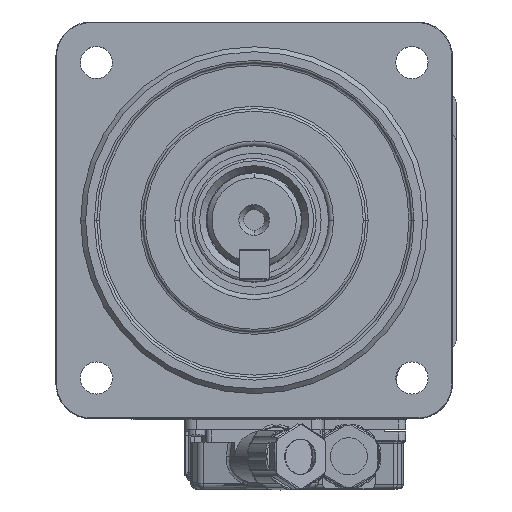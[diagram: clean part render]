
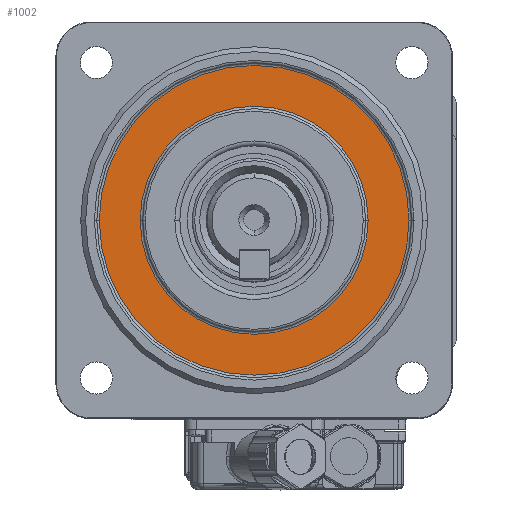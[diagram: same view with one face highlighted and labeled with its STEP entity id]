
A CAD part, top view. The second image highlights one B-rep face of the part: STEP entity #1002.
In plain terms, the highlighted planar face has unit normal (0, 0, 1).
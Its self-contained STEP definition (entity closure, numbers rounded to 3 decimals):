
#899 = DIRECTION ( 'NONE',  ( 1., 0., 0. ) ) ;
#1002 = ADVANCED_FACE ( 'NONE', ( #4811, #6462 ), #1188, .T. ) ;
#1188 = PLANE ( 'NONE',  #7041 ) ;
#2463 = VERTEX_POINT ( 'NONE', #40050 ) ;
#3810 = AXIS2_PLACEMENT_3D ( 'NONE', #15717, #4798, #19003 ) ;
#4598 = DIRECTION ( 'NONE',  ( 1., 0., 0. ) ) ;
#4628 = AXIS2_PLACEMENT_3D ( 'NONE', #12571, #41046, #5092 ) ;
#4798 = DIRECTION ( 'NONE',  ( 0., 0., 1. ) ) ;
#4811 = FACE_OUTER_BOUND ( 'NONE', #28766, .T. ) ;
#4825 = CIRCLE ( 'NONE', #18714, 31.25 ) ;
#5088 = ORIENTED_EDGE ( 'NONE', *, *, #9658, .T. ) ;
#5092 = DIRECTION ( 'NONE',  ( 1., 0., 0. ) ) ;
#5540 = ORIENTED_EDGE ( 'NONE', *, *, #43815, .T. ) ;
#5744 = CIRCLE ( 'NONE', #45180, 23. ) ;
#6462 = FACE_BOUND ( 'NONE', #11471, .T. ) ;
#7041 = AXIS2_PLACEMENT_3D ( 'NONE', #29849, #19139, #4598 ) ;
#7102 = VERTEX_POINT ( 'NONE', #33829 ) ;
#8200 = CIRCLE ( 'NONE', #3810, 31.25 ) ;
#9658 = EDGE_CURVE ( 'NONE', #7102, #9970, #5744, .T. ) ;
#9970 = VERTEX_POINT ( 'NONE', #20724 ) ;
#11471 = EDGE_LOOP ( 'NONE', ( #5088, #5540 ) ) ;
#11672 = DIRECTION ( 'NONE',  ( 0., 0., -1. ) ) ;
#12571 = CARTESIAN_POINT ( 'NONE',  ( 0., 0., 8. ) ) ;
#13103 = CARTESIAN_POINT ( 'NONE',  ( 0., 0., 8. ) ) ;
#14365 = ORIENTED_EDGE ( 'NONE', *, *, #35111, .T. ) ;
#15717 = CARTESIAN_POINT ( 'NONE',  ( 0., 0., 8. ) ) ;
#16210 = CIRCLE ( 'NONE', #4628, 23. ) ;
#16995 = DIRECTION ( 'NONE',  ( 0., 0., 1. ) ) ;
#18251 = ORIENTED_EDGE ( 'NONE', *, *, #34822, .T. ) ;
#18714 = AXIS2_PLACEMENT_3D ( 'NONE', #13103, #16995, #45601 ) ;
#19003 = DIRECTION ( 'NONE',  ( 1., 0., 0. ) ) ;
#19139 = DIRECTION ( 'NONE',  ( 0., 0., 1. ) ) ;
#20724 = CARTESIAN_POINT ( 'NONE',  ( -23., 0., 8. ) ) ;
#28503 = CARTESIAN_POINT ( 'NONE',  ( -31.25, 0., 8. ) ) ;
#28766 = EDGE_LOOP ( 'NONE', ( #18251, #14365 ) ) ;
#29849 = CARTESIAN_POINT ( 'NONE',  ( 0., 0., 8. ) ) ;
#33829 = CARTESIAN_POINT ( 'NONE',  ( 23., 0., 8. ) ) ;
#34822 = EDGE_CURVE ( 'NONE', #2463, #39595, #4825, .T. ) ;
#35111 = EDGE_CURVE ( 'NONE', #39595, #2463, #8200, .T. ) ;
#36560 = CARTESIAN_POINT ( 'NONE',  ( 0., 0., 8. ) ) ;
#39595 = VERTEX_POINT ( 'NONE', #28503 ) ;
#40050 = CARTESIAN_POINT ( 'NONE',  ( 31.25, 0., 8. ) ) ;
#41046 = DIRECTION ( 'NONE',  ( 0., 0., -1. ) ) ;
#43815 = EDGE_CURVE ( 'NONE', #9970, #7102, #16210, .T. ) ;
#45180 = AXIS2_PLACEMENT_3D ( 'NONE', #36560, #11672, #899 ) ;
#45601 = DIRECTION ( 'NONE',  ( 1., 0., 0. ) ) ;
